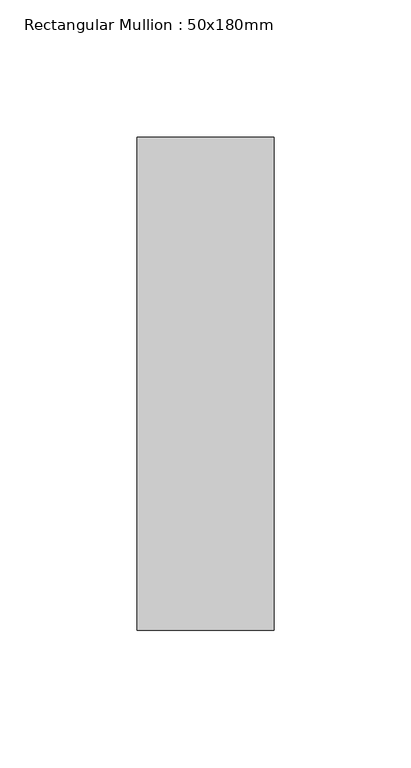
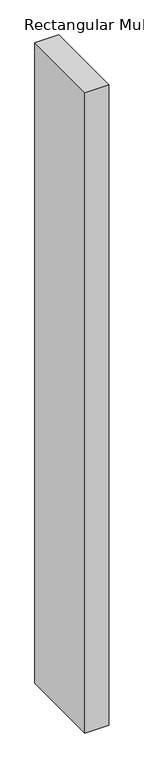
"""IFC4 building model written with IfcOpenShell, lengths in millimetres: member geometry, Rectangular Mullion : 50x180mm."""

from ifc_helpers import new_model, si_unit, frame, origin, place, context, project, spatial, polyline, outline, extrude, source, transform, mapped, element, save


def rectangular_mullion_50x180mm_1be9a22b(model_context):
    return source(origin(), model_context, "Body", "SweptSolid", [
        extrude(outline(polyline([(0.0, 90.0), (0.0, -90.0), (-50.0, -90.0), (-50.0, 90.0), (0.0, 90.0)])), frame((0.0, 0.0, -1407.8125002), z_axis=(0.0, 0.0, 1.0), x_axis=(1.0, 0.0, 0.0)), (0.0, 0.0, 1.0), 1407.8125002),
    ])


if __name__ == "__main__":
    model = new_model("IFC4")
    model_context = context("Model", 3, world=origin())
    ifc_project = project(units=[si_unit("LENGTHUNIT", "METRE", prefix="MILLI")], contexts=[model_context])
    site = spatial("IfcSite", under=ifc_project)
    building = spatial("IfcBuilding", under=site)
    placement = place(None, origin())
    rectangular_mullion_50x180mm_shape = rectangular_mullion_50x180mm_1be9a22b(model_context)
    element("IfcMember", 1, ObjectType="Rectangular Mullion : 50x180mm", at=placement, inside=building, context=model_context, shape_type="MappedRepresentation", body=[
        mapped(rectangular_mullion_50x180mm_shape, transform((0.0, 0.0, 0.0), x_axis=(1.0, 0.0, 0.0), y_axis=(0.0, 1.0, 0.0), z_axis=(0.0, 0.0, 1.0))),
    ])
    save(model, "model.ifc")
